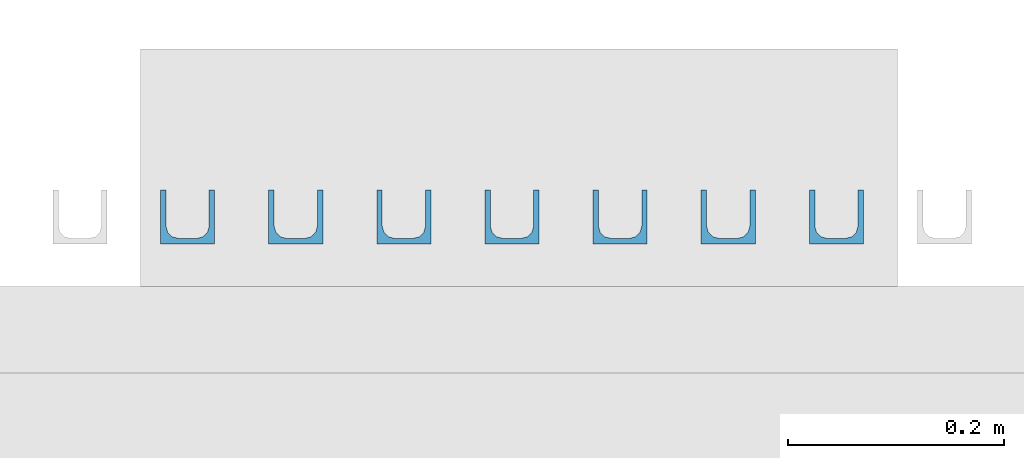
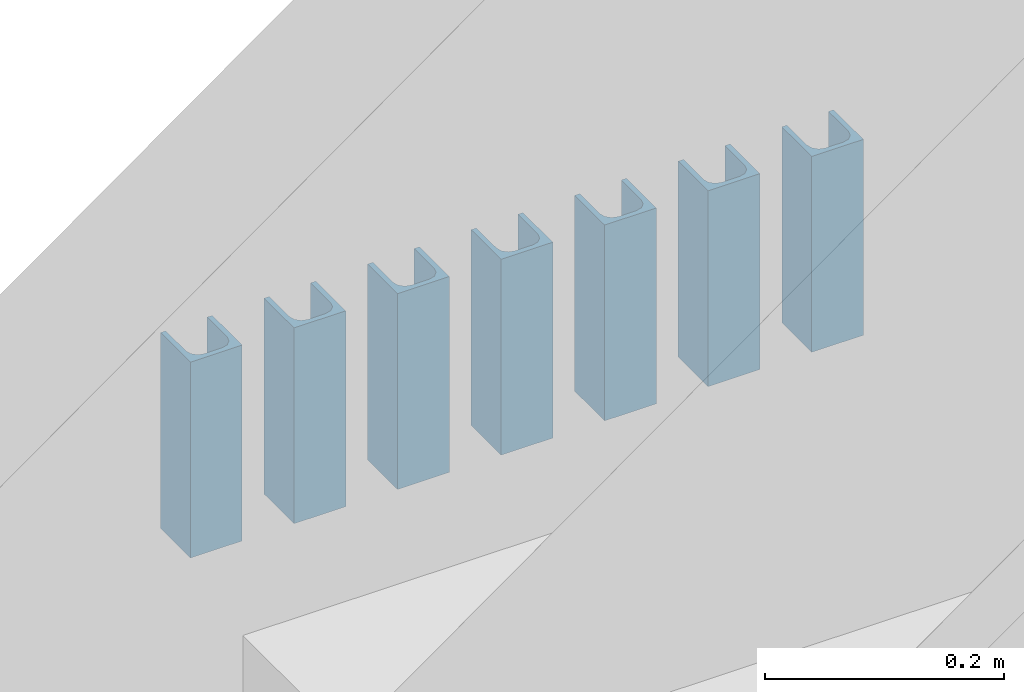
# One storey, part 49 of 100: 7 discrete accessories.
"""IFC2X3 building model written with IfcOpenShell, lengths in millimetres."""

from ifc_helpers import new_model, entity, si_unit, converted_unit, derived_unit, money_unit, direction, frame, origin_with_axes, place, context, subcontext, project, spatial, faceted_brep, source, transform, mapped, material, type_object, element, save


model = new_model("IFC2X3")

# Units and contexts
model_context = context("Model", 3, precision=0.01, world=origin_with_axes(), true_north=direction((0.0, 1.0)))
body_context = subcontext(model_context, "Body", "Model", "MODEL_VIEW")
ifc_project = project(units=[si_unit("LENGTHUNIT", "METRE", prefix="MILLI"), si_unit("AREAUNIT", "SQUARE_METRE"), si_unit("VOLUMEUNIT", "CUBIC_METRE"), converted_unit("PLANEANGLEUNIT", "DEGREE", entity("IfcPlaneAngleMeasure", 0.0174532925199), si_unit("PLANEANGLEUNIT", "RADIAN"), dimensions=[0, 0, 0, 0, 0, 0, 0]), si_unit("SOLIDANGLEUNIT", "STERADIAN"), money_unit("EUR"), converted_unit("TIMEUNIT", "Year", entity("IfcTimeMeasure", 31556926.0), si_unit("TIMEUNIT", "SECOND"), dimensions=[0, 0, 1, 0, 0, 0, 0]), si_unit("MASSUNIT", "GRAM", prefix="KILO"), si_unit("THERMODYNAMICTEMPERATUREUNIT", "DEGREE_CELSIUS"), si_unit("LUMINOUSINTENSITYUNIT", "LUMEN"), si_unit("ENERGYUNIT", "JOULE", prefix="MEGA"), derived_unit("THERMALCONDUCTANCEUNIT", [(si_unit("POWERUNIT", "WATT"), 1), (si_unit("LENGTHUNIT", "METRE"), -1), (si_unit("THERMODYNAMICTEMPERATUREUNIT", "KELVIN"), -1)]), derived_unit("SPECIFICHEATCAPACITYUNIT", [(si_unit("ENERGYUNIT", "JOULE"), 1), (si_unit("MASSUNIT", "GRAM", prefix="KILO"), -1), (si_unit("THERMODYNAMICTEMPERATUREUNIT", "KELVIN"), -1)]), derived_unit("MASSDENSITYUNIT", [(si_unit("MASSUNIT", "GRAM", prefix="KILO"), 1), (si_unit("VOLUMEUNIT", "CUBIC_METRE"), -1)])], contexts=[model_context])

# Site, building, storey
site_placement = place(None, origin_with_axes())
site = spatial("IfcSite", under=ifc_project, at=site_placement, Name="Politse- ja Piirivalveameti ning Päästeameti ühishoone", CompositionType="ELEMENT")
building_placement = place(site_placement, origin_with_axes())
building = spatial("IfcBuilding", under=site, at=building_placement, Name="Politse- ja Piirivalveameti ning Päästeameti ühishoone", CompositionType="ELEMENT")
storey_placement = place(building_placement, frame((0.0, 0.0, 3800.0), z_axis=(0.0, 0.0, 1.0), x_axis=(1.0, 0.0, 0.0)))
storey = spatial("IfcBuildingStorey", under=building, at=storey_placement, Name="Teine korrus", CompositionType="ELEMENT", Elevation=3800.0)

# Discrete accessories
ifc_material = material(Name="ET-05_Teras")
discrete_accessory_type = type_object("IfcDiscreteAccessoryType", Name="UAP Column 23")
shared_shape = source(origin_with_axes(), body_context, "Body", "Brep", [
    faceted_brep([(-25.0, -25.0, 0.0), (-25.0, -25.0, 200.000049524), (-25.0, -20.0, 200.000049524), (-25.0, -20.0, 0.0), (25.0, -25.0, 0.0), (25.0, -25.0, 200.000049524), (25.0, 25.0, 200.000049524), (-25.0, 25.0, 200.000049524), (-25.0, 20.0, 200.000049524), (8.5, 20.0, 200.000049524), (14.25, 18.4592921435, 200.000049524), (18.4592921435, 14.25, 200.000049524), (20.0, 8.5, 200.000049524), (20.0, -8.5, 200.000049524), (18.4592921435, -14.25, 200.000049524), (14.25, -18.4592921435, 200.000049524), (8.5, -20.0, 200.000049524), (8.5, -20.0, 0.0), (14.25, -18.4592921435, 0.0), (18.4592921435, -14.25, 0.0), (20.0, -8.5, 0.0), (20.0, 8.5, 0.0), (18.4592921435, 14.25, 0.0), (14.25, 18.4592921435, 0.0), (8.5, 20.0, 0.0), (-25.0, 20.0, 0.0), (-25.0, 25.0, 0.0), (25.0, 25.0, 0.0)], [[[0, 1, 2, 3]], [[4, 5, 1, 0]], [[1, 5, 6, 7, 8, 9, 10, 11, 12, 13, 14, 15, 16, 2]], [[3, 2, 16, 17]], [[0, 3, 17, 18, 19, 20, 21, 22, 23, 24, 25, 26, 27, 4]], [[27, 6, 5, 4]], [[26, 7, 6, 27]], [[25, 8, 7, 26]], [[24, 9, 8, 25]], [[23, 10, 9, 24]], [[22, 11, 10, 23]], [[21, 12, 11, 22]], [[20, 13, 12, 21]], [[19, 14, 13, 20]], [[18, 15, 14, 19]], [[17, 16, 15, 18]]]),
])
for number, where, z_axis, x_axis in (
    (1, (45264.9647265, 21574.5960775, 2600.0), (0.0, 0.0, 1.0), (1.30049800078e-07, -1.0, 0.0)),
    (2, (45364.9647265, 21574.5960905, 2600.0), (0.0, 0.0, 1.0), (1.30049800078e-07, -1.0, 0.0)),
    (3, (45064.9647265, 21574.5960515, 2600.0), (0.0, 0.0, 1.0), (1.30049800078e-07, -1.0, 0.0)),
    (4, (45164.9647265, 21574.5960645, 2600.0), (0.0, 0.0, 1.0), (1.30049800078e-07, -1.0, 0.0)),
    (5, (44864.9647265, 21574.5960255, 2600.0), (0.0, 0.0, 1.0), (1.30049800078e-07, -1.0, 0.0)),
    (6, (44964.9647265, 21574.5960385, 2600.0), (0.0, 0.0, 1.0), (1.30049800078e-07, -1.0, 0.0)),
    (7, (44764.9647265, 21574.5960255, 2600.0), (0.0, 0.0, 1.0), (1.30049800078e-07, -1.0, 0.0)),
):
    element("IfcDiscreteAccessory", number, at=place(storey_placement, frame(where, z_axis=z_axis, x_axis=x_axis)), inside=storey, type_object=discrete_accessory_type, material=ifc_material, Name="Fassaadiribid", context=body_context, shape_type="MappedRepresentation", body=[
        mapped(shared_shape, transform((0.0, 0.0, 0.0))),
    ])

save(model, "model.ifc")
